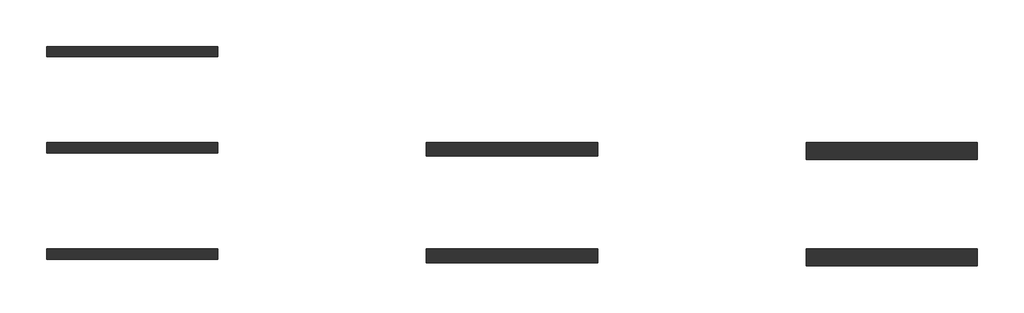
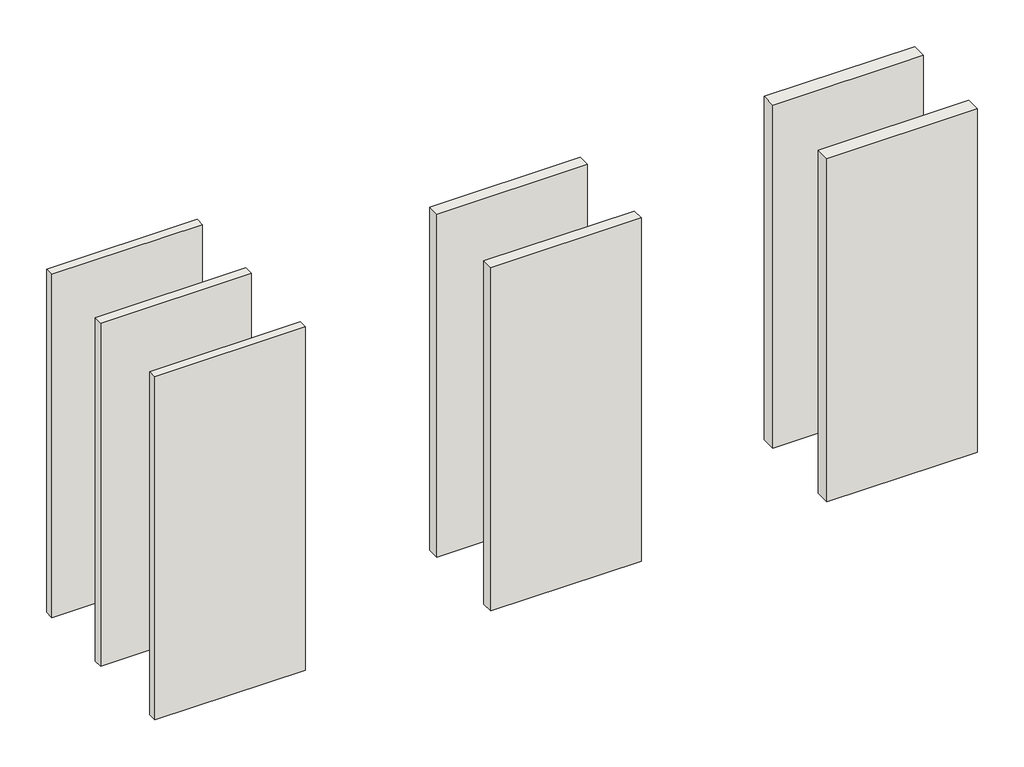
# One storey: 7 walls.
"""IFC4 building model written with IfcOpenShell, lengths in millimetres."""

from ifc_helpers import new_model, si_unit, origin, origin_with_axes, place, context, project, spatial, polyline, outline, extrude, element, save

model = new_model("IFC4")

# Units and contexts
model_context = context("Model", 3, world=origin())
ifc_project = project(units=[si_unit("LENGTHUNIT", "METRE", prefix="MILLI")], contexts=[model_context])

# Site, building, storey
site = spatial("IfcSite", under=ifc_project)
building = spatial("IfcBuilding", under=site)
storey = spatial("IfcBuildingStorey", under=building, Name="Уровень 1", Elevation=0.0)

# Walls
placement = place(None, origin())
element("IfcWall", 1, ObjectType="Перегородка-КНАУФ-С111-Применение внутри здания-75/50@600 ГКЛ 12,5", at=placement, inside=storey, context=model_context, shape_type="SweptSolid", body=[
    extrude(outline(polyline([(-9315.7236634, 13509.2035262), (-10560.2640717, 13509.2035262), (-10560.2640717, 13584.2035262), (-9315.7236634, 13584.2035262), (-9315.7236634, 13509.2035262)])), origin_with_axes(), (0.0, 0.0, 1.0), 3000.0),
])
element("IfcWall", 2, ObjectType="Перегородка-КНАУФ-С111-Применение внутри здания-75/50@600 ГСП-А(Н2) 12,5", at=placement, inside=storey, context=model_context, shape_type="SweptSolid", body=[
    extrude(outline(polyline([(-9315.7236634, 12809.2035262), (-10560.2640717, 12809.2035262), (-10560.2640717, 12884.2035262), (-9315.7236634, 12884.2035262), (-9315.7236634, 12809.2035262)])), origin_with_axes(), (0.0, 0.0, 1.0), 3000.0),
])
element("IfcWall", 3, ObjectType="Перегородка-КНАУФ-С111-Применение внутри здания-75/50@600 ГСП-DF(DFH2) 12,5", at=placement, inside=storey, context=model_context, shape_type="SweptSolid", body=[
    extrude(outline(polyline([(-9315.7236634, 12034.2035262), (-10560.2640717, 12034.2035262), (-10560.2640717, 12109.2035262), (-9315.7236634, 12109.2035262), (-9315.7236634, 12034.2035262)])), origin_with_axes(), (0.0, 0.0, 1.0), 3000.0),
])
element("IfcWall", 4, ObjectType="Перегородка-КНАУФ-С111-Применение внутри здания-100/75@600 ГСП-А(Н2) 12,5", at=placement, inside=storey, context=model_context, shape_type="SweptSolid", body=[
    extrude(outline(polyline([(-6551.1832552, 12784.2035262), (-7795.7236634, 12784.2035262), (-7795.7236634, 12884.2035262), (-6551.1832552, 12884.2035262), (-6551.1832552, 12784.2035262)])), origin_with_axes(), (0.0, 0.0, 1.0), 3000.0),
])
element("IfcWall", 5, ObjectType="Перегородка-КНАУФ-С111-Применение внутри здания-100/75@600 ГСП-DF(DFH2) 12,5", at=placement, inside=storey, context=model_context, shape_type="SweptSolid", body=[
    extrude(outline(polyline([(-6551.1832552, 12009.2035262), (-7795.7236634, 12009.2035262), (-7795.7236634, 12109.2035262), (-6551.1832552, 12109.2035262), (-6551.1832552, 12009.2035262)])), origin_with_axes(), (0.0, 0.0, 1.0), 3000.0),
])
element("IfcWall", 6, ObjectType="Перегородка-КНАУФ-С111-Применение внутри здания-125/100@600 ГСП-А(Н2) 12,5", at=placement, inside=storey, context=model_context, shape_type="SweptSolid", body=[
    extrude(outline(polyline([(-3786.6428469, 12759.2035262), (-5031.1832552, 12759.2035262), (-5031.1832552, 12884.2035262), (-3786.6428469, 12884.2035262), (-3786.6428469, 12759.2035262)])), origin_with_axes(), (0.0, 0.0, 1.0), 3000.0),
])
element("IfcWall", 7, ObjectType="Перегородка-КНАУФ-С111-Применение внутри здания-125/100@600 ГСП-DF(DFH2) 12,5", at=placement, inside=storey, context=model_context, shape_type="SweptSolid", body=[
    extrude(outline(polyline([(-3786.6428469, 11984.2035262), (-5031.1832552, 11984.2035262), (-5031.1832552, 12109.2035262), (-3786.6428469, 12109.2035262), (-3786.6428469, 11984.2035262)])), origin_with_axes(), (0.0, 0.0, 1.0), 3000.0),
])

save(model, "model.ifc")
